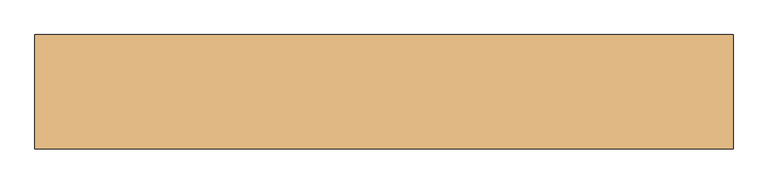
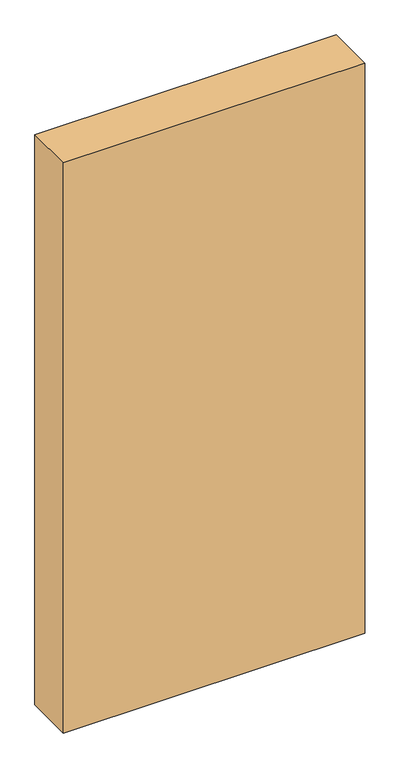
"""IFC4 building model written with IfcOpenShell, lengths in millimetres: door geometry, Dr_Проем-Простой : ДВ."""

from ifc_helpers import new_model, si_unit, frame, origin, place, context, project, spatial, polyline, outline, extrude, source, transform, mapped, element, save


def door_38ff9651(model_context):
    return source(origin(), model_context, "Body", "SweptSolid", [
        extrude(outline(polyline([(755.3230163, -90.0), (-344.6769837, -90.0), (-344.6769837, 90.0), (755.3230163, 90.0), (755.3230163, -90.0)])), frame((0.0, 0.0, -100.0), z_axis=(0.0, 0.0, 1.0), x_axis=(1.0, 0.0, 0.0)), (0.0, 0.0, 1.0), 2200.0),
    ])


if __name__ == "__main__":
    model = new_model("IFC4")
    model_context = context("Model", 3, world=origin())
    ifc_project = project(units=[si_unit("LENGTHUNIT", "METRE", prefix="MILLI")], contexts=[model_context])
    site = spatial("IfcSite", under=ifc_project)
    building = spatial("IfcBuilding", under=site)
    placement = place(None, origin())
    door_shape = door_38ff9651(model_context)
    element("IfcDoor", 1, ObjectType="Dr_Проем-Простой : ДВ", at=placement, inside=building, context=model_context, shape_type="MappedRepresentation", body=[
        mapped(door_shape, transform((0.0, 0.0, 0.0), x_axis=(1.0, 0.0, 0.0), y_axis=(0.0, 1.0, 0.0), z_axis=(0.0, 0.0, 1.0))),
    ])
    save(model, "model.ifc")
